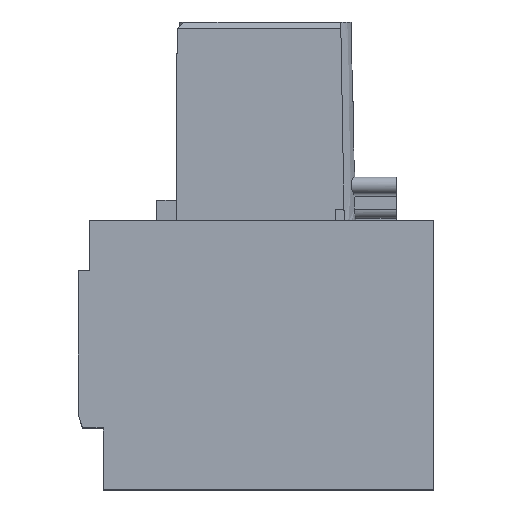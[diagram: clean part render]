
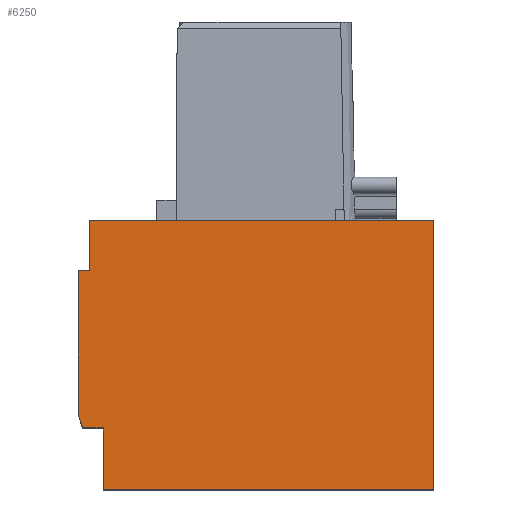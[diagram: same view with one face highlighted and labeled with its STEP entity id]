
A CAD part, top view. The second image highlights one B-rep face of the part: STEP entity #6250.
In plain terms, the highlighted planar face has unit normal (0, 0, 1).
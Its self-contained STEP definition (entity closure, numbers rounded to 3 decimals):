
#355=DIRECTION('',(-1.,0.,0.));
#356=VECTOR('',#355,15.1);
#357=CARTESIAN_POINT('',(15.6,11.8,-3.15));
#358=LINE('',#357,#356);
#391=DIRECTION('',(0.,-1.,0.));
#392=VECTOR('',#391,2.2);
#393=CARTESIAN_POINT('',(0.5,11.8,-3.15));
#394=LINE('',#393,#392);
#519=DIRECTION('',(0.,-1.,0.));
#520=VECTOR('',#519,11.8);
#521=CARTESIAN_POINT('',(15.6,11.8,-3.15));
#522=LINE('',#521,#520);
#523=DIRECTION('',(-1.,0.,0.));
#524=VECTOR('',#523,14.5);
#525=CARTESIAN_POINT('',(15.6,0.,-3.15));
#526=LINE('',#525,#524);
#527=DIRECTION('',(0.,1.,0.));
#528=VECTOR('',#527,2.7);
#529=CARTESIAN_POINT('',(1.1,0.,-3.15));
#530=LINE('',#529,#528);
#531=DIRECTION('',(-0.316,0.949,0.));
#532=VECTOR('',#531,0.632);
#533=CARTESIAN_POINT('',(0.2,2.7,-3.15));
#534=LINE('',#533,#532);
#1513=DIRECTION('',(1.,0.,0.));
#1514=VECTOR('',#1513,0.9);
#1515=CARTESIAN_POINT('',(0.2,2.7,-3.15));
#1516=LINE('',#1515,#1514);
#1553=DIRECTION('',(-1.,0.,0.));
#1554=VECTOR('',#1553,0.5);
#1555=CARTESIAN_POINT('',(0.5,9.6,-3.15));
#1556=LINE('',#1555,#1554);
#1565=DIRECTION('',(0.,-1.,0.));
#1566=VECTOR('',#1565,6.3);
#1567=CARTESIAN_POINT('',(0.,9.6,-3.15));
#1568=LINE('',#1567,#1566);
#4224=CARTESIAN_POINT('',(1.1,0.,-3.15));
#4226=VERTEX_POINT('',#4224);
#4240=CARTESIAN_POINT('',(1.1,2.7,-3.15));
#4242=VERTEX_POINT('',#4240);
#4244=CARTESIAN_POINT('',(15.6,0.,-3.15));
#4246=VERTEX_POINT('',#4244);
#4320=CARTESIAN_POINT('',(15.6,11.8,-3.15));
#4322=VERTEX_POINT('',#4320);
#4348=CARTESIAN_POINT('',(0.5,11.8,-3.15));
#4350=VERTEX_POINT('',#4348);
#4376=CARTESIAN_POINT('',(0.5,9.6,-3.15));
#4377=VERTEX_POINT('',#4376);
#5087=CARTESIAN_POINT('',(0.,9.6,-3.15));
#5088=VERTEX_POINT('',#5087);
#5091=CARTESIAN_POINT('',(0.2,2.7,-3.15));
#5092=VERTEX_POINT('',#5091);
#5093=CARTESIAN_POINT('',(0.,3.3,-3.15));
#5094=VERTEX_POINT('',#5093);
#6228=CARTESIAN_POINT('',(8.35,0.,-3.15));
#6229=DIRECTION('',(0.,0.,1.));
#6230=DIRECTION('',(1.,0.,0.));
#6231=AXIS2_PLACEMENT_3D('',#6228,#6229,#6230);
#6232=PLANE('',#6231);
#6233=ORIENTED_EDGE('',*,*,#6042,.F.);
#6235=ORIENTED_EDGE('',*,*,#6234,.T.);
#6237=ORIENTED_EDGE('',*,*,#6236,.T.);
#6238=ORIENTED_EDGE('',*,*,#5547,.T.);
#6240=ORIENTED_EDGE('',*,*,#6239,.F.);
#6242=ORIENTED_EDGE('',*,*,#6241,.T.);
#6244=ORIENTED_EDGE('',*,*,#6243,.F.);
#6246=ORIENTED_EDGE('',*,*,#6245,.F.);
#6247=ORIENTED_EDGE('',*,*,#6073,.F.);
#6248=EDGE_LOOP('',(#6233,#6235,#6237,#6238,#6240,#6242,#6244,#6246,#6247));
#6249=FACE_OUTER_BOUND('',#6248,.F.);
#6250=ADVANCED_FACE('',(#6249),#6232,.T.);
#5547=EDGE_CURVE('',#4226,#4242,#530,.T.);
#6042=EDGE_CURVE('',#4322,#4350,#358,.T.);
#6073=EDGE_CURVE('',#4350,#4377,#394,.T.);
#6234=EDGE_CURVE('',#4322,#4246,#522,.T.);
#6236=EDGE_CURVE('',#4246,#4226,#526,.T.);
#6239=EDGE_CURVE('',#5092,#4242,#1516,.T.);
#6241=EDGE_CURVE('',#5092,#5094,#534,.T.);
#6243=EDGE_CURVE('',#5088,#5094,#1568,.T.);
#6245=EDGE_CURVE('',#4377,#5088,#1556,.T.);
